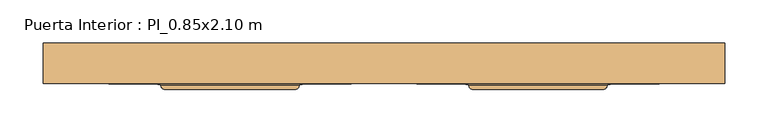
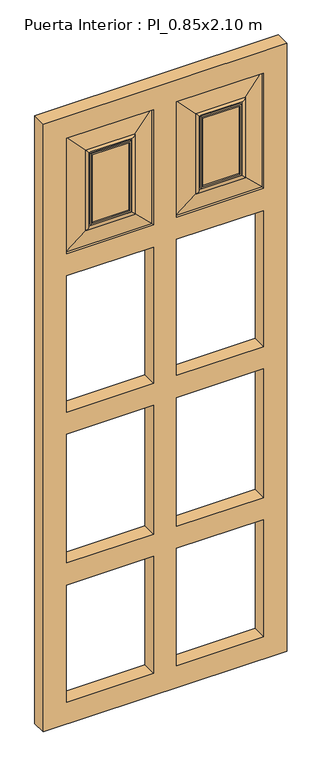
"""IFC4 building model written with IfcOpenShell, lengths in millimetres: door geometry, Puerta Interior : PI_0.85x2.10 m."""

from ifc_helpers import new_model, si_unit, frame, origin, place, context, project, spatial, polyline, ellipse_curve, outline, extrude, source, transform, mapped, element, save
from ifc_brep_helpers import plane_surface, cylinder_surface, advanced_brep


def puerta_interior_pi_0_85x2_10_m_c524f691(model_context):
    return source(origin(), model_context, "Body", "SolidModel", [
        advanced_brep(
        [(-237.0, 0.0, 1912.0), (-237.0, 0.0, 1680.0087316), (-117.5, 0.0, 1680.0087316), (-117.5, 0.0, 1912.0), (-317.0, 35.0, 1600.0087316), (-317.0, 35.0, 1992.0), (-37.5, 35.0, 1992.0), (-37.5, 35.0, 1600.0087316), (-237.0, -5.0, 1912.0), (-237.0, -5.0, 1680.0087316), (-317.0, 10.0, 1992.0), (-317.0, 10.0, 1600.0087316), (-257.0, 0.0, 1660.0087316), (-257.0, 0.0, 1932.0), (-247.0, 0.0, 1670.0087316), (-247.0, 0.0, 1922.0), (-242.0, -5.0, 1917.0), (-242.0, 0.0, 1917.0), (-242.0, 0.0, 1675.0087316), (-242.0, -5.0, 1675.0087316), (-117.5, -5.0, 1680.0087316), (-37.5, 10.0, 1600.0087316), (-97.5, 0.0, 1660.0087316), (-107.5, 0.0, 1670.0087316), (-112.5, 0.0, 1675.0087316), (-112.5, -5.0, 1675.0087316), (-117.5, -5.0, 1912.0), (-37.5, 10.0, 1992.0), (-97.5, 0.0, 1932.0), (-107.5, 0.0, 1922.0), (-112.5, 0.0, 1917.0), (-112.5, -5.0, 1917.0)],
        [
            (0, 1),
            (1, 2),
            (2, 3),
            (3, 0),
            (4, 5),
            (5, 6),
            (6, 7),
            (7, 4),
            (8, 9),
            (9, 1),
            (0, 8),
            (10, 5),
            (4, 11),
            (11, 10),
            (11, 12),
            (12, 13),
            (13, 10),
            (12, 14, ellipse_curve(frame((-252.0, 0.0, 1665.0087316), z_axis=(-0.7071067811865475, 0.0, 0.7071067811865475), x_axis=(0.7071067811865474, 0.0, 0.7071067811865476)), 7.0710678, 5.0)),
            (14, 15),
            (15, 13, ellipse_curve(frame((-252.0, 0.0, 1927.0), z_axis=(-0.7071067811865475, 0.0, -0.7071067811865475), x_axis=(-0.7071067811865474, 0.0, 0.7071067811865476)), 7.0710678, 5.0)),
            (16, 17),
            (17, 18),
            (18, 19),
            (19, 16),
            (9, 20),
            (20, 2),
            (7, 21),
            (21, 11),
            (21, 22),
            (22, 12),
            (22, 23, ellipse_curve(frame((-102.5, 0.0, 1665.0087316), z_axis=(-0.7071067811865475, 0.0, -0.7071067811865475), x_axis=(-0.7071067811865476, 0.0, 0.7071067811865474)), 7.0710678, 5.0)),
            (23, 14),
            (18, 24),
            (24, 25),
            (25, 19),
            (20, 26),
            (26, 3),
            (6, 27),
            (27, 21),
            (27, 28),
            (28, 22),
            (28, 29, ellipse_curve(frame((-102.5, 0.0, 1927.0), z_axis=(0.7071067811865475, 0.0, -0.7071067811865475), x_axis=(-0.7071067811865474, 0.0, -0.7071067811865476)), 7.0710678, 5.0)),
            (29, 23),
            (24, 30),
            (30, 31),
            (31, 25),
            (26, 8),
            (10, 27),
            (13, 28),
            (15, 29),
            (17, 30),
            (16, 31),
        ],
        [
            plane_surface(frame((-237.0, 0.0, 1912.0), z_axis=(0.0, -1.0, 0.0), x_axis=(0.0, 0.0, -1.0))),
            plane_surface(frame((-237.0, 35.0, 1912.0), z_axis=(0.0, 1.0, 0.0), x_axis=(0.0, 0.0, 1.0))),
            plane_surface(frame((-237.0, -5.0, 1912.0), z_axis=(1.0, 0.0, 0.0), x_axis=(0.0, 0.0, -1.0))),
            plane_surface(frame((-317.0, 35.0, 1992.0), z_axis=(-1.0, 0.0, 0.0), x_axis=(0.0, 0.0, -1.0))),
            plane_surface(frame((-317.0, 10.0, 1992.0), z_axis=(-0.1643989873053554, -0.9863939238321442, 0.0), x_axis=(0.0, 0.0, -1.0))),
            cylinder_surface(frame((-252.0, 0.0, 1992.0), z_axis=(0.0, 0.0, 1.0), x_axis=(0.0, 1.0, 0.0)), 5.0),
            plane_surface(frame((-242.0, 0.0, 1917.0), z_axis=(-1.0, 0.0, 0.0), x_axis=(0.0, 0.0, -1.0))),
            plane_surface(frame((-237.0, -5.0, 1680.0087316), z_axis=(0.0, 0.0, 1.0), x_axis=(1.0, 0.0, 0.0))),
            plane_surface(frame((-317.0, 35.0, 1600.0087316), z_axis=(0.0, 0.0, -1.0), x_axis=(1.0, 0.0, 0.0))),
            plane_surface(frame((-317.0, 10.0, 1600.0087316), z_axis=(0.0, -0.9863939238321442, -0.1643989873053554), x_axis=(1.0, 0.0, 0.0))),
            cylinder_surface(frame((-317.0, 0.0, 1665.0087316), z_axis=(-1.0, 0.0, 0.0), x_axis=(0.0, 1.0, 0.0)), 5.0),
            plane_surface(frame((-242.0, 0.0, 1675.0087316), z_axis=(0.0, 0.0, -1.0), x_axis=(1.0, 0.0, 0.0))),
            plane_surface(frame((-117.5, -5.0, 1680.0087316), z_axis=(-1.0, 0.0, 0.0), x_axis=(0.0, 0.0, 1.0))),
            plane_surface(frame((-37.5, 35.0, 1600.0087316), z_axis=(1.0, 0.0, 0.0), x_axis=(0.0, 0.0, 1.0))),
            plane_surface(frame((-37.5, 10.0, 1600.0087316), z_axis=(0.1643989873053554, -0.9863939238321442, 0.0), x_axis=(0.0, 0.0, 1.0))),
            cylinder_surface(frame((-102.5, 0.0, 1600.0087316), z_axis=(0.0, 0.0, -1.0), x_axis=(0.0, 1.0, 0.0)), 5.0),
            plane_surface(frame((-112.5, 0.0, 1675.0087316), z_axis=(1.0, 0.0, 0.0), x_axis=(0.0, 0.0, 1.0))),
            plane_surface(frame((-117.5, -5.0, 1912.0), z_axis=(0.0, 0.0, -1.0), x_axis=(-1.0, 0.0, 0.0))),
            plane_surface(frame((-37.5, 35.0, 1992.0), z_axis=(0.0, 0.0, 1.0), x_axis=(-1.0, 0.0, 0.0))),
            plane_surface(frame((-37.5, 10.0, 1992.0), z_axis=(0.0, -0.9863939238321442, 0.1643989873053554), x_axis=(-1.0, 0.0, 0.0))),
            cylinder_surface(frame((-37.5, 0.0, 1927.0), z_axis=(1.0, 0.0, 0.0), x_axis=(0.0, 1.0, 0.0)), 5.0),
            plane_surface(frame((-107.5, 0.0, 1922.0), z_axis=(0.0, -1.0, 0.0), x_axis=(-1.0, 0.0, 0.0))),
            plane_surface(frame((-112.5, 0.0, 1917.0), z_axis=(0.0, 0.0, 1.0), x_axis=(-1.0, 0.0, 0.0))),
            plane_surface(frame((-112.5, -5.0, 1917.0), z_axis=(0.0, -1.0, 0.0), x_axis=(-1.0, 0.0, 0.0))),
        ],
        [
            (0, [[1, 2, 3, 4]]),
            (1, [[5, 6, 7, 8]]),
            (2, [[9, 10, -1, 11]]),
            (3, [[12, -5, 13, 14]]),
            (4, [[-14, 15, 16, 17]]),
            (5, [[-16, 18, 19, 20]]),
            (6, [[21, 22, 23, 24]]),
            (7, [[25, 26, -2, -10]]),
            (8, [[-13, -8, 27, 28]]),
            (9, [[-15, -28, 29, 30]]),
            (10, [[-18, -30, 31, 32]]),
            (11, [[-23, 33, 34, 35]]),
            (12, [[36, 37, -3, -26]]),
            (13, [[-27, -7, 38, 39]]),
            (14, [[-29, -39, 40, 41]]),
            (15, [[-31, -41, 42, 43]]),
            (16, [[-34, 44, 45, 46]]),
            (17, [[47, -11, -4, -37]]),
            (18, [[-12, 48, -38, -6]]),
            (19, [[-17, 49, -40, -48]]),
            (20, [[-20, 50, -42, -49]]),
            (21, [[-19, -32, -43, -50], [-22, 51, -44, -33]]),
            (22, [[-21, 52, -45, -51]]),
            (23, [[-24, -35, -46, -52], [-9, -47, -36, -25]]),
        ],
    ),
        advanced_brep(
        [(117.5, -5.0, 1912.0), (117.5, -5.0, 1680.0087316), (117.5, 0.0, 1680.0087316), (117.5, 0.0, 1912.0), (37.5, 10.0, 1992.0), (37.5, 35.0, 1992.0), (37.5, 35.0, 1600.0087316), (37.5, 10.0, 1600.0087316), (97.5, 0.0, 1660.0087316), (97.5, 0.0, 1932.0), (107.5, 0.0, 1670.0087316), (107.5, 0.0, 1922.0), (112.5, -5.0, 1917.0), (112.5, 0.0, 1917.0), (112.5, 0.0, 1675.0087316), (112.5, -5.0, 1675.0087316), (237.0, -5.0, 1680.0087316), (237.0, 0.0, 1680.0087316), (317.0, 35.0, 1600.0087316), (317.0, 10.0, 1600.0087316), (257.0, 0.0, 1660.0087316), (247.0, 0.0, 1670.0087316), (242.0, 0.0, 1675.0087316), (242.0, -5.0, 1675.0087316), (237.0, -5.0, 1912.0), (237.0, 0.0, 1912.0), (317.0, 35.0, 1992.0), (317.0, 10.0, 1992.0), (257.0, 0.0, 1932.0), (247.0, 0.0, 1922.0), (242.0, 0.0, 1917.0), (242.0, -5.0, 1917.0)],
        [
            (0, 1),
            (1, 2),
            (2, 3),
            (3, 0),
            (4, 5),
            (5, 6),
            (6, 7),
            (7, 4),
            (7, 8),
            (8, 9),
            (9, 4),
            (8, 10, ellipse_curve(frame((102.5, 0.0, 1665.0087316), z_axis=(-0.7071067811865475, 0.0, 0.7071067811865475), x_axis=(0.7071067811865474, 0.0, 0.7071067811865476)), 7.0710678, 5.0)),
            (10, 11),
            (11, 9, ellipse_curve(frame((102.5, 0.0, 1927.0), z_axis=(-0.7071067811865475, 0.0, -0.7071067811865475), x_axis=(-0.7071067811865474, 0.0, 0.7071067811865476)), 7.0710678, 5.0)),
            (12, 13),
            (13, 14),
            (14, 15),
            (15, 12),
            (1, 16),
            (16, 17),
            (17, 2),
            (6, 18),
            (18, 19),
            (19, 7),
            (19, 20),
            (20, 8),
            (20, 21, ellipse_curve(frame((252.0, 0.0, 1665.0087316), z_axis=(-0.7071067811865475, 0.0, -0.7071067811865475), x_axis=(-0.7071067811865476, 0.0, 0.7071067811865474)), 7.0710678, 5.0)),
            (21, 10),
            (14, 22),
            (22, 23),
            (23, 15),
            (16, 24),
            (24, 25),
            (25, 17),
            (18, 26),
            (26, 27),
            (27, 19),
            (27, 28),
            (28, 20),
            (28, 29, ellipse_curve(frame((252.0, 0.0, 1927.0), z_axis=(0.7071067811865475, 0.0, -0.7071067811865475), x_axis=(-0.7071067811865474, 0.0, -0.7071067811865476)), 7.0710678, 5.0)),
            (29, 21),
            (22, 30),
            (30, 31),
            (31, 23),
            (24, 0),
            (3, 25),
            (5, 26),
            (4, 27),
            (9, 28),
            (11, 29),
            (13, 30),
            (12, 31),
        ],
        [
            plane_surface(frame((117.5, -5.0, 1912.0), z_axis=(1.0, 0.0, 0.0), x_axis=(0.0, 0.0, -1.0))),
            plane_surface(frame((37.5, 35.0, 1992.0), z_axis=(-1.0, 0.0, 0.0), x_axis=(0.0, 0.0, -1.0))),
            plane_surface(frame((37.5, 10.0, 1992.0), z_axis=(-0.1643989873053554, -0.9863939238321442, 0.0), x_axis=(0.0, 0.0, -1.0))),
            cylinder_surface(frame((102.5, 0.0, 1992.0), z_axis=(0.0, 0.0, 1.0), x_axis=(0.0, 1.0, 0.0)), 5.0),
            plane_surface(frame((112.5, 0.0, 1917.0), z_axis=(-1.0, 0.0, 0.0), x_axis=(0.0, 0.0, -1.0))),
            plane_surface(frame((117.5, -5.0, 1680.0087316), z_axis=(0.0, 0.0, 1.0), x_axis=(1.0, 0.0, 0.0))),
            plane_surface(frame((37.5, 35.0, 1600.0087316), z_axis=(0.0, 0.0, -1.0), x_axis=(1.0, 0.0, 0.0))),
            plane_surface(frame((37.5, 10.0, 1600.0087316), z_axis=(0.0, -0.9863939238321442, -0.1643989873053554), x_axis=(1.0, 0.0, 0.0))),
            cylinder_surface(frame((37.5, 0.0, 1665.0087316), z_axis=(-1.0, 0.0, 0.0), x_axis=(0.0, 1.0, 0.0)), 5.0),
            plane_surface(frame((112.5, 0.0, 1675.0087316), z_axis=(0.0, 0.0, -1.0), x_axis=(1.0, 0.0, 0.0))),
            plane_surface(frame((237.0, -5.0, 1680.0087316), z_axis=(-1.0, 0.0, 0.0), x_axis=(0.0, 0.0, 1.0))),
            plane_surface(frame((317.0, 35.0, 1600.0087316), z_axis=(1.0, 0.0, 0.0), x_axis=(0.0, 0.0, 1.0))),
            plane_surface(frame((317.0, 10.0, 1600.0087316), z_axis=(0.1643989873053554, -0.9863939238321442, 0.0), x_axis=(0.0, 0.0, 1.0))),
            cylinder_surface(frame((252.0, 0.0, 1600.0087316), z_axis=(0.0, 0.0, -1.0), x_axis=(0.0, 1.0, 0.0)), 5.0),
            plane_surface(frame((242.0, 0.0, 1675.0087316), z_axis=(1.0, 0.0, 0.0), x_axis=(0.0, 0.0, 1.0))),
            plane_surface(frame((237.0, -5.0, 1912.0), z_axis=(0.0, 0.0, -1.0), x_axis=(-1.0, 0.0, 0.0))),
            plane_surface(frame((237.0, 35.0, 1912.0), z_axis=(0.0, 1.0, 0.0), x_axis=(-1.0, 0.0, 0.0))),
            plane_surface(frame((317.0, 35.0, 1992.0), z_axis=(0.0, 0.0, 1.0), x_axis=(-1.0, 0.0, 0.0))),
            plane_surface(frame((317.0, 10.0, 1992.0), z_axis=(0.0, -0.9863939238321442, 0.1643989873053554), x_axis=(-1.0, 0.0, 0.0))),
            cylinder_surface(frame((317.0, 0.0, 1927.0), z_axis=(1.0, 0.0, 0.0), x_axis=(0.0, 1.0, 0.0)), 5.0),
            plane_surface(frame((247.0, 0.0, 1922.0), z_axis=(0.0, -1.0, 0.0), x_axis=(-1.0, 0.0, 0.0))),
            plane_surface(frame((242.0, 0.0, 1917.0), z_axis=(0.0, 0.0, 1.0), x_axis=(-1.0, 0.0, 0.0))),
            plane_surface(frame((242.0, -5.0, 1917.0), z_axis=(0.0, -1.0, 0.0), x_axis=(-1.0, 0.0, 0.0))),
            plane_surface(frame((117.5, 0.0, 1912.0), z_axis=(0.0, -1.0, 0.0), x_axis=(0.0, 0.0, -1.0))),
        ],
        [
            (0, [[1, 2, 3, 4]]),
            (1, [[5, 6, 7, 8]]),
            (2, [[-8, 9, 10, 11]]),
            (3, [[-10, 12, 13, 14]]),
            (4, [[15, 16, 17, 18]]),
            (5, [[19, 20, 21, -2]]),
            (6, [[-7, 22, 23, 24]]),
            (7, [[-9, -24, 25, 26]]),
            (8, [[-12, -26, 27, 28]]),
            (9, [[-17, 29, 30, 31]]),
            (10, [[32, 33, 34, -20]]),
            (11, [[-23, 35, 36, 37]]),
            (12, [[-25, -37, 38, 39]]),
            (13, [[-27, -39, 40, 41]]),
            (14, [[-30, 42, 43, 44]]),
            (15, [[45, -4, 46, -33]]),
            (16, [[-6, 47, -35, -22]]),
            (17, [[-5, 48, -36, -47]]),
            (18, [[-11, 49, -38, -48]]),
            (19, [[-14, 50, -40, -49]]),
            (20, [[-13, -28, -41, -50], [-16, 51, -42, -29]]),
            (21, [[-15, 52, -43, -51]]),
            (22, [[-18, -31, -44, -52], [-1, -45, -32, -19]]),
            (23, [[-3, -21, -34, -46]]),
        ],
    ),
        extrude(outline(polyline([(2.5, 392.0), (2067.0, 392.0), (2067.0, -392.0), (2.5, -392.0), (2.5, 392.0)]), holes=[polyline([(1062.5174632, 317.0), (1062.5174632, 37.5), (1525.0087316, 37.5), (1525.0087316, 317.0), (1062.5174632, 317.0)]), polyline([(1062.5174632, -37.5), (1062.5174632, -317.0), (1525.0087316, -317.0), (1525.0087316, -37.5), (1062.5174632, -37.5)]), polyline([(987.5174632, 37.5), (987.5174632, 317.0), (550.0087316, 317.0), (550.0087316, 37.5), (987.5174632, 37.5)]), polyline([(475.0087316, -37.5), (77.5, -37.5), (77.5, -317.0), (475.0087316, -317.0), (475.0087316, -37.5)]), polyline([(550.0087316, -37.5), (550.0087316, -317.0), (987.5174632, -317.0), (987.5174632, -37.5), (550.0087316, -37.5)]), polyline([(475.0087316, 37.5), (475.0087316, 317.0), (77.5, 317.0), (77.5, 37.5), (475.0087316, 37.5)]), polyline([(1600.0087316, 37.5), (1992.0, 37.5), (1992.0, 317.0), (1600.0087316, 317.0), (1600.0087316, 37.5)]), polyline([(1600.0087316, -37.5), (1600.0087316, -317.0), (1992.0, -317.0), (1992.0, -37.5), (1600.0087316, -37.5)])]), frame((0.0, 1.803125, 0.0), z_axis=(0.0, 1.0, 0.0), x_axis=(0.0, 0.0, 1.0)), (0.0, 0.0, 1.0), 46.4),
    ])


if __name__ == "__main__":
    model = new_model("IFC4")
    model_context = context("Model", 3, world=origin())
    ifc_project = project(units=[si_unit("LENGTHUNIT", "METRE", prefix="MILLI")], contexts=[model_context])
    site = spatial("IfcSite", under=ifc_project)
    building = spatial("IfcBuilding", under=site)
    placement = place(None, origin())
    puerta_interior_pi_0_85x2_10_m_shape = puerta_interior_pi_0_85x2_10_m_c524f691(model_context)
    element("IfcDoor", 1, ObjectType="Puerta Interior : PI_0.85x2.10 m", at=placement, inside=building, context=model_context, shape_type="MappedRepresentation", body=[
        mapped(puerta_interior_pi_0_85x2_10_m_shape, transform((0.0, 0.0, 0.0), x_axis=(1.0, 0.0, 0.0), y_axis=(0.0, 1.0, 0.0), z_axis=(0.0, 0.0, 1.0))),
    ])
    save(model, "model.ifc")
